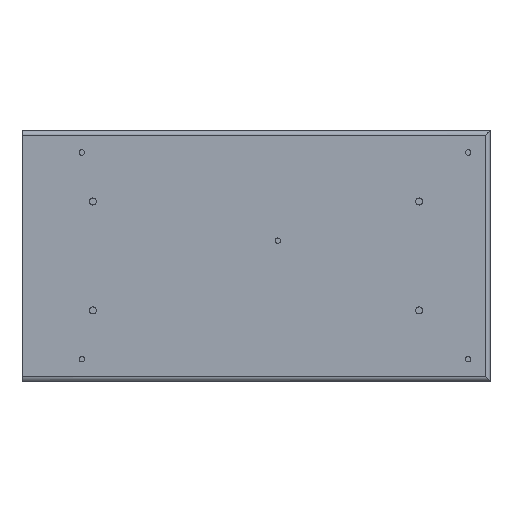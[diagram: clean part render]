
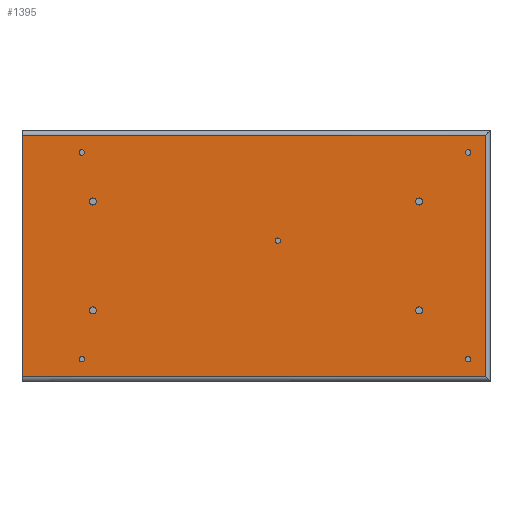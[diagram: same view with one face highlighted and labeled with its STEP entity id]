
A CAD part, top view. The second image highlights one B-rep face of the part: STEP entity #1395.
In plain terms, the highlighted planar face has unit normal (0, 0, 1).
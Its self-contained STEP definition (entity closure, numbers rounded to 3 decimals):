
#1395=ADVANCED_FACE('',(#10596,#10598,#10600,#10602,#10604,#10606,#10608,#10610,
#10612,#10614),#10616,.T.);
#10596=FACE_BOUND('',#10597,.T.);
#10597=EDGE_LOOP('',(#18097,#18098,#18099,#18100));
#10598=FACE_BOUND('',#10599,.T.);
#10599=EDGE_LOOP('',(#18101));
#10600=FACE_BOUND('',#10601,.T.);
#10601=EDGE_LOOP('',(#18102));
#10602=FACE_BOUND('',#10603,.T.);
#10603=EDGE_LOOP('',(#18103));
#10604=FACE_BOUND('',#10605,.T.);
#10605=EDGE_LOOP('',(#18104));
#10606=FACE_BOUND('',#10607,.T.);
#10607=EDGE_LOOP('',(#18105));
#10608=FACE_BOUND('',#10609,.T.);
#10609=EDGE_LOOP('',(#18106));
#10610=FACE_BOUND('',#10611,.T.);
#10611=EDGE_LOOP('',(#18107));
#10612=FACE_BOUND('',#10613,.T.);
#10613=EDGE_LOOP('',(#18108));
#10614=FACE_BOUND('',#10615,.T.);
#10615=EDGE_LOOP('',(#18109));
#10616=PLANE('',#10617);
#10617=AXIS2_PLACEMENT_3D('',#10618,#10619,#10620);
#10618=CARTESIAN_POINT('',(0.,0.,30.));
#10619=DIRECTION('',(0.,0.,1.));
#10620=DIRECTION('',(1.,0.,0.));
#18097=ORIENTED_EDGE('',*,*,#23678,.T.);
#18098=ORIENTED_EDGE('',*,*,#23679,.T.);
#18099=ORIENTED_EDGE('',*,*,#23680,.T.);
#18100=ORIENTED_EDGE('',*,*,#23640,.T.);
#18101=ORIENTED_EDGE('',*,*,#23676,.T.);
#18102=ORIENTED_EDGE('',*,*,#23674,.T.);
#18103=ORIENTED_EDGE('',*,*,#23675,.T.);
#18104=ORIENTED_EDGE('',*,*,#23669,.T.);
#18105=ORIENTED_EDGE('',*,*,#23670,.T.);
#18106=ORIENTED_EDGE('',*,*,#23671,.T.);
#18107=ORIENTED_EDGE('',*,*,#23668,.T.);
#18108=ORIENTED_EDGE('',*,*,#23672,.T.);
#18109=ORIENTED_EDGE('',*,*,#23673,.T.);
#23640=EDGE_CURVE('',#26700,#26698,#26701,.T.);
#23668=EDGE_CURVE('',#26745,#26745,#26746,.F.);
#23669=EDGE_CURVE('',#26747,#26747,#26748,.F.);
#23670=EDGE_CURVE('',#26749,#26749,#26750,.F.);
#23671=EDGE_CURVE('',#26751,#26751,#26752,.F.);
#23672=EDGE_CURVE('',#26753,#26753,#26754,.F.);
#23673=EDGE_CURVE('',#26755,#26755,#26756,.F.);
#23674=EDGE_CURVE('',#26757,#26757,#26758,.F.);
#23675=EDGE_CURVE('',#26759,#26759,#26760,.F.);
#23676=EDGE_CURVE('',#26761,#26761,#26762,.F.);
#23678=EDGE_CURVE('',#26698,#26763,#26765,.T.);
#23679=EDGE_CURVE('',#26763,#26766,#26767,.T.);
#23680=EDGE_CURVE('',#26766,#26700,#26768,.T.);
#26698=VERTEX_POINT('',#32095);
#26700=VERTEX_POINT('',#32100);
#26701=LINE('',#32101,#32102);
#26745=VERTEX_POINT('',#32209);
#26746=CIRCLE('',#32210,1.621);
#26747=VERTEX_POINT('',#32214);
#26748=CIRCLE('',#32215,1.621);
#26749=VERTEX_POINT('',#32219);
#26750=CIRCLE('',#32220,1.621);
#26751=VERTEX_POINT('',#32224);
#26752=CIRCLE('',#32225,1.621);
#26753=VERTEX_POINT('',#32229);
#26754=CIRCLE('',#32230,1.229);
#26755=VERTEX_POINT('',#32234);
#26756=CIRCLE('',#32235,1.229);
#26757=VERTEX_POINT('',#32239);
#26758=CIRCLE('',#32240,1.229);
#26759=VERTEX_POINT('',#32244);
#26760=CIRCLE('',#32245,1.229);
#26761=VERTEX_POINT('',#32249);
#26762=CIRCLE('',#32250,1.229);
#26763=VERTEX_POINT('',#32254);
#26765=LINE('',#32259,#32260);
#26766=VERTEX_POINT('',#32262);
#26767=LINE('',#32263,#32264);
#26768=LINE('',#32266,#32267);
#32095=CARTESIAN_POINT('',(0.,2.,30.));
#32100=CARTESIAN_POINT('',(0.,113.,30.));
#32101=CARTESIAN_POINT('',(0.,113.,30.));
#32102=VECTOR('',#32103,1.);
#32103=DIRECTION('',(0.,-1.,0.));
#32209=CARTESIAN_POINT('',(184.121,82.5,30.));
#32210=AXIS2_PLACEMENT_3D('',#32211,#32212,#32213);
#32211=CARTESIAN_POINT('',(182.5,82.5,30.));
#32212=DIRECTION('',(0.,0.,1.));
#32213=DIRECTION('',(1.,0.,0.));
#32214=CARTESIAN_POINT('',(34.121,82.5,30.));
#32215=AXIS2_PLACEMENT_3D('',#32216,#32217,#32218);
#32216=CARTESIAN_POINT('',(32.5,82.5,30.));
#32217=DIRECTION('',(0.,0.,1.));
#32218=DIRECTION('',(1.,0.,0.));
#32219=CARTESIAN_POINT('',(184.121,32.5,30.));
#32220=AXIS2_PLACEMENT_3D('',#32221,#32222,#32223);
#32221=CARTESIAN_POINT('',(182.5,32.5,30.));
#32222=DIRECTION('',(0.,0.,1.));
#32223=DIRECTION('',(1.,0.,0.));
#32224=CARTESIAN_POINT('',(34.121,32.5,30.));
#32225=AXIS2_PLACEMENT_3D('',#32226,#32227,#32228);
#32226=CARTESIAN_POINT('',(32.5,32.5,30.));
#32227=DIRECTION('',(0.,0.,1.));
#32228=DIRECTION('',(1.,0.,0.));
#32229=CARTESIAN_POINT('',(28.729,10.,30.));
#32230=AXIS2_PLACEMENT_3D('',#32231,#32232,#32233);
#32231=CARTESIAN_POINT('',(27.5,10.,30.));
#32232=DIRECTION('',(0.,0.,1.));
#32233=DIRECTION('',(1.,0.,0.));
#32234=CARTESIAN_POINT('',(206.229,10.,30.));
#32235=AXIS2_PLACEMENT_3D('',#32236,#32237,#32238);
#32236=CARTESIAN_POINT('',(205.,10.,30.));
#32237=DIRECTION('',(0.,0.,1.));
#32238=DIRECTION('',(1.,0.,0.));
#32239=CARTESIAN_POINT('',(206.229,105.,30.));
#32240=AXIS2_PLACEMENT_3D('',#32241,#32242,#32243);
#32241=CARTESIAN_POINT('',(205.,105.,30.));
#32242=DIRECTION('',(0.,0.,1.));
#32243=DIRECTION('',(1.,0.,0.));
#32244=CARTESIAN_POINT('',(28.729,105.,30.));
#32245=AXIS2_PLACEMENT_3D('',#32246,#32247,#32248);
#32246=CARTESIAN_POINT('',(27.5,105.,30.));
#32247=DIRECTION('',(0.,0.,1.));
#32248=DIRECTION('',(1.,0.,0.));
#32249=CARTESIAN_POINT('',(118.729,64.5,30.));
#32250=AXIS2_PLACEMENT_3D('',#32251,#32252,#32253);
#32251=CARTESIAN_POINT('',(117.5,64.5,30.));
#32252=DIRECTION('',(0.,0.,1.));
#32253=DIRECTION('',(1.,0.,0.));
#32254=CARTESIAN_POINT('',(213.,2.,30.));
#32259=CARTESIAN_POINT('',(0.,2.,30.));
#32260=VECTOR('',#32261,1.);
#32261=DIRECTION('',(1.,0.,0.));
#32262=CARTESIAN_POINT('',(213.,113.,30.));
#32263=CARTESIAN_POINT('',(213.,2.,30.));
#32264=VECTOR('',#32265,1.);
#32265=DIRECTION('',(0.,1.,0.));
#32266=CARTESIAN_POINT('',(213.,113.,30.));
#32267=VECTOR('',#32268,1.);
#32268=DIRECTION('',(-1.,0.,0.));
